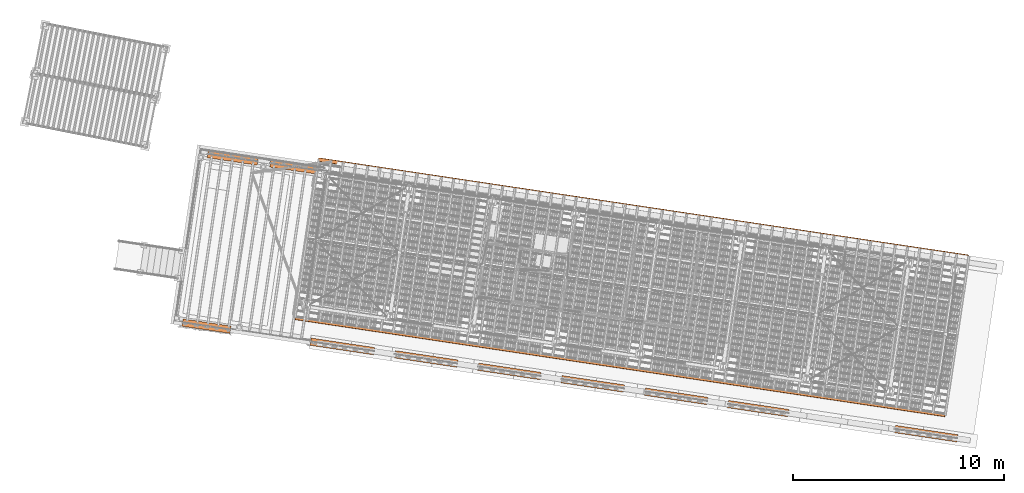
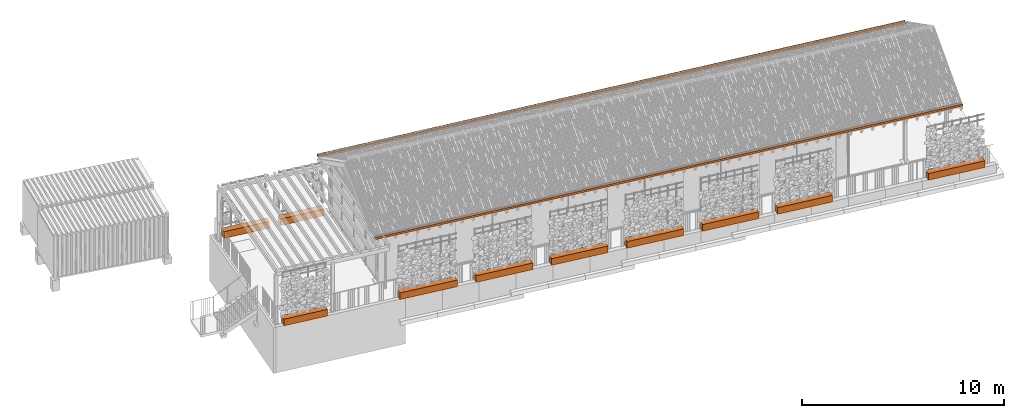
# One storey, part 128 of 128: 12 proxies, 1 element without a shape of its own.
"""IFC4 building model written with IfcOpenShell, lengths in metres."""

from ifc_helpers import new_model, si_unit, direction, frame, origin_with_axes, place, context, subcontext, project, spatial, polyline, outline, extrude, material, element, aggregate, save


model = new_model("IFC4")

# Units and contexts
model_context = context("Model", 3, precision=1e-05, world=origin_with_axes(), true_north=direction((0.0, 1.0)))
body_context = subcontext(model_context, "Body", "Model", "MODEL_VIEW")
ifc_project = project(units=[si_unit("VOLUMEUNIT", "CUBIC_METRE"), si_unit("LENGTHUNIT", "METRE"), si_unit("AREAUNIT", "SQUARE_METRE")], contexts=[model_context])

# Site, building, storey
site_placement = place(None, origin_with_axes())
site = spatial("IfcSite", under=ifc_project, at=site_placement, Name="Lares · Rua das Mercês · artigo 4771")
building_placement = place(site_placement, frame((15.0, 9.7, 13.9), z_axis=(0.0, 0.0, 1.0), x_axis=(0.989015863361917, -0.147809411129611, 0.0)))
building = spatial("IfcBuilding", under=site, at=building_placement, Name="Casa Sobreposta")
storey_placement = place(building_placement, origin_with_axes())
storey = spatial("IfcBuildingStorey", under=building, at=storey_placement, Name="00 · Habitação e estacionamento", Elevation=13.9)

# Proxies
ifc_material_1 = material(Name="Aço galvanizado / Stahl verzinkt", Category="steel")
proxy_1_placement = place(storey_placement, frame((-0.45, 0.0, 0.0), z_axis=(0.999998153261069, 0.0, 0.0019218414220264), x_axis=(0.0, 1.0, 0.0)))
element("IfcBuildingElementProxy", 1, at=proxy_1_placement, inside=storey, material=ifc_material_1, Name="Cobertura · caleira pluvial para cisterna", ObjectType="Cobertura · caleira pluvial para cisterna", PredefinedType="USERDEFINED", context=body_context, shape_type="SweptSolid", body=[
    extrude(outline(polyline([(-0.69, 3.2), (-0.69, 3.08), (-0.51, 3.08), (-0.51, 3.2), (-0.518, 3.2), (-0.518, 3.088), (-0.682, 3.088), (-0.682, 3.2), (-0.69, 3.2)])), origin_with_axes(), (0.0, 0.0, 1.0), 31.22),
])
proxy_2_placement = place(storey_placement, frame((-0.45, 0.0, 0.0), z_axis=(0.999998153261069, 0.0, 0.0019218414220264), x_axis=(0.0, 1.0, 0.0)))
element("IfcBuildingElementProxy", 2, at=proxy_2_placement, inside=storey, material=ifc_material_1, Name="Cobertura · caleira pluvial para cisterna", ObjectType="Cobertura · caleira pluvial para cisterna", PredefinedType="USERDEFINED", context=body_context, shape_type="SweptSolid", body=[
    extrude(outline(polyline([(6.91, 3.2), (6.91, 3.08), (7.09, 3.08), (7.09, 3.2), (7.082, 3.2), (7.082, 3.088), (6.918, 3.088), (6.918, 3.2), (6.91, 3.2)])), origin_with_axes(), (0.0, 0.0, 1.0), 31.22),
])

# Assembly, proxies
assembly_placement = place(storey_placement, origin_with_axes())
assembly = element("IfcElementAssembly", 3, at=assembly_placement, inside=storey, Name="Fachada sul e pátio · estrutura e trepadeiras", ObjectType="LIVING_SHADE_TRELLIS", PredefinedType="USERDEFINED")
ifc_material_2 = material(Name="Betão armado / Stahlbeton", Category="concrete")
proxy_3_placement = place(assembly_placement, frame((0.0, 0.0, -0.04), z_axis=(0.0, 0.0, 1.0), x_axis=(1.0, 0.0, 0.0)))
proxy_3 = element("IfcBuildingElementProxy", 4, at=proxy_3_placement, material=ifc_material_2, Name="Trepadeiras · floreira", ObjectType="Trepadeiras · floreira", PredefinedType="USERDEFINED", context=body_context, shape_type="SweptSolid", body=[
    extrude(outline(polyline([(-3.4, -1.785), (-3.4, -1.435), (-5.7, -1.435), (-5.7, -1.785), (-3.4, -1.785)])), origin_with_axes(), (0.0, 0.0, 1.0), 0.4),
])
proxy_4_placement = place(assembly_placement, frame((0.0, 0.0, -0.04), z_axis=(0.0, 0.0, 1.0), x_axis=(1.0, 0.0, 0.0)))
proxy_4 = element("IfcBuildingElementProxy", 5, at=proxy_4_placement, material=ifc_material_2, Name="Trepadeiras · floreira", ObjectType="Trepadeiras · floreira", PredefinedType="USERDEFINED", context=body_context, shape_type="SweptSolid", body=[
    extrude(outline(polyline([(3.5, -1.785), (3.5, -1.435), (0.45, -1.435), (0.45, -1.785), (3.5, -1.785)])), origin_with_axes(), (0.0, 0.0, 1.0), 0.4),
])
proxy_5_placement = place(assembly_placement, frame((0.0, 0.0, -0.04), z_axis=(0.0, 0.0, 1.0), x_axis=(1.0, 0.0, 0.0)))
proxy_5 = element("IfcBuildingElementProxy", 6, at=proxy_5_placement, material=ifc_material_2, Name="Trepadeiras · floreira", ObjectType="Trepadeiras · floreira", PredefinedType="USERDEFINED", context=body_context, shape_type="SweptSolid", body=[
    extrude(outline(polyline([(7.5, -1.785), (7.5, -1.435), (4.5, -1.435), (4.5, -1.785), (7.5, -1.785)])), origin_with_axes(), (0.0, 0.0, 1.0), 0.4),
])
proxy_6_placement = place(assembly_placement, frame((0.0, 0.0, -0.04), z_axis=(0.0, 0.0, 1.0), x_axis=(1.0, 0.0, 0.0)))
proxy_6 = element("IfcBuildingElementProxy", 7, at=proxy_6_placement, material=ifc_material_2, Name="Trepadeiras · floreira", ObjectType="Trepadeiras · floreira", PredefinedType="USERDEFINED", context=body_context, shape_type="SweptSolid", body=[
    extrude(outline(polyline([(11.5, -1.785), (11.5, -1.435), (8.5, -1.435), (8.5, -1.785), (11.5, -1.785)])), origin_with_axes(), (0.0, 0.0, 1.0), 0.4),
])
proxy_7_placement = place(assembly_placement, frame((0.0, 0.0, -0.04), z_axis=(0.0, 0.0, 1.0), x_axis=(1.0, 0.0, 0.0)))
proxy_7 = element("IfcBuildingElementProxy", 8, at=proxy_7_placement, material=ifc_material_2, Name="Trepadeiras · floreira", ObjectType="Trepadeiras · floreira", PredefinedType="USERDEFINED", context=body_context, shape_type="SweptSolid", body=[
    extrude(outline(polyline([(15.5, -1.785), (15.5, -1.435), (12.5, -1.435), (12.5, -1.785), (15.5, -1.785)])), origin_with_axes(), (0.0, 0.0, 1.0), 0.4),
])
proxy_8_placement = place(assembly_placement, frame((0.0, 0.0, -0.04), z_axis=(0.0, 0.0, 1.0), x_axis=(1.0, 0.0, 0.0)))
proxy_8 = element("IfcBuildingElementProxy", 9, at=proxy_8_placement, material=ifc_material_2, Name="Trepadeiras · floreira", ObjectType="Trepadeiras · floreira", PredefinedType="USERDEFINED", context=body_context, shape_type="SweptSolid", body=[
    extrude(outline(polyline([(19.5, -1.785), (19.5, -1.435), (16.5, -1.435), (16.5, -1.785), (19.5, -1.785)])), origin_with_axes(), (0.0, 0.0, 1.0), 0.4),
])
proxy_9_placement = place(assembly_placement, frame((0.0, 0.0, -0.04), z_axis=(0.0, 0.0, 1.0), x_axis=(1.0, 0.0, 0.0)))
proxy_9 = element("IfcBuildingElementProxy", 10, at=proxy_9_placement, material=ifc_material_2, Name="Trepadeiras · floreira", ObjectType="Trepadeiras · floreira", PredefinedType="USERDEFINED", context=body_context, shape_type="SweptSolid", body=[
    extrude(outline(polyline([(23.4, -1.785), (23.4, -1.435), (20.5, -1.435), (20.5, -1.785), (23.4, -1.785)])), origin_with_axes(), (0.0, 0.0, 1.0), 0.4),
])
proxy_10_placement = place(assembly_placement, frame((0.0, 0.0, -0.04), z_axis=(0.0, 0.0, 1.0), x_axis=(1.0, 0.0, 0.0)))
proxy_10 = element("IfcBuildingElementProxy", 11, at=proxy_10_placement, material=ifc_material_2, Name="Trepadeiras · floreira", ObjectType="Trepadeiras · floreira", PredefinedType="USERDEFINED", context=body_context, shape_type="SweptSolid", body=[
    extrude(outline(polyline([(31.5, -1.785), (31.5, -1.435), (28.5, -1.435), (28.5, -1.785), (31.5, -1.785)])), origin_with_axes(), (0.0, 0.0, 1.0), 0.4),
])
proxy_11_placement = place(assembly_placement, frame((0.0, 0.0, -0.04), z_axis=(0.0, 0.0, 1.0), x_axis=(1.0, 0.0, 0.0)))
proxy_11 = element("IfcBuildingElementProxy", 12, at=proxy_11_placement, material=ifc_material_2, Name="Trepadeiras · floreira", ObjectType="Trepadeiras · floreira", PredefinedType="USERDEFINED", context=body_context, shape_type="SweptSolid", body=[
    extrude(outline(polyline([(-3.3, 6.305), (-3.3, 6.655), (-5.7, 6.655), (-5.7, 6.305), (-3.3, 6.305)])), origin_with_axes(), (0.0, 0.0, 1.0), 0.4),
])
proxy_12_placement = place(assembly_placement, frame((0.0, 0.0, -0.04), z_axis=(0.0, 0.0, 1.0), x_axis=(1.0, 0.0, 0.0)))
proxy_12 = element("IfcBuildingElementProxy", 13, at=proxy_12_placement, material=ifc_material_2, Name="Trepadeiras · floreira", ObjectType="Trepadeiras · floreira", PredefinedType="USERDEFINED", context=body_context, shape_type="SweptSolid", body=[
    extrude(outline(polyline([(-0.4, 6.305), (-0.4, 6.655), (-2.7, 6.655), (-2.7, 6.305), (-0.4, 6.305)])), origin_with_axes(), (0.0, 0.0, 1.0), 0.4),
])
aggregate(assembly, [proxy_3, proxy_4, proxy_5, proxy_6, proxy_7, proxy_8, proxy_9, proxy_10, proxy_11, proxy_12])

save(model, "model.ifc")
